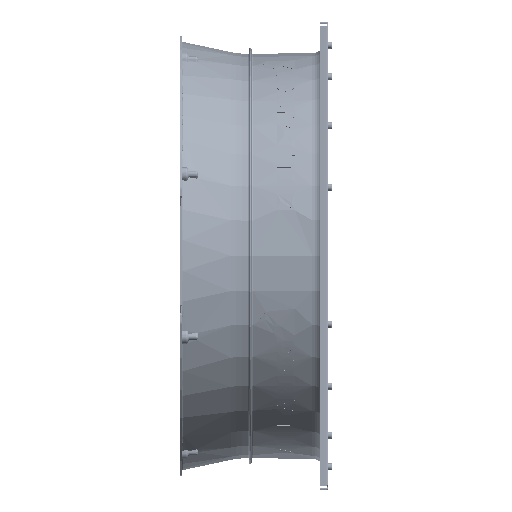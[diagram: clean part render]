
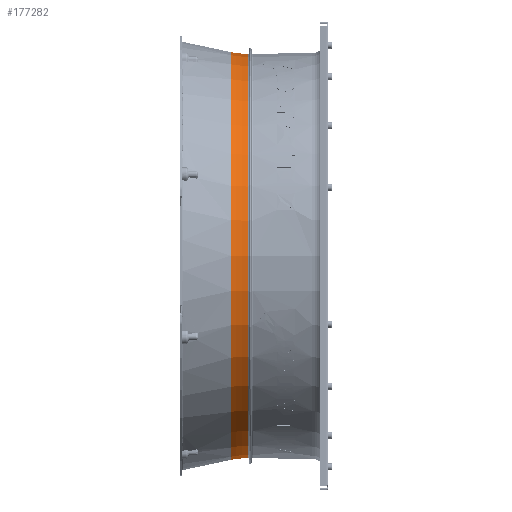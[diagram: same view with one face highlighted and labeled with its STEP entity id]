
A CAD part, top view. The second image highlights one B-rep face of the part: STEP entity #177282.
In plain terms, the highlighted toroidal (fillet/blend) face has major radius 712.262 mm and minor radius 206 mm.
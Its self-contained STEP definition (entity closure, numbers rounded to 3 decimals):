
#2755=CARTESIAN_POINT('',(11.963,712.262,
0.));
#2756=DIRECTION('',(0.,0.,-1.));
#2757=DIRECTION('',(0.003,-1.,0.));
#2758=AXIS2_PLACEMENT_3D('',#2755,#2756,#2757);
#2799=CARTESIAN_POINT('',(12.56,0.,0.));
#2800=DIRECTION('',(1.,0.,0.));
#2801=DIRECTION('',(0.,1.,0.));
#2802=AXIS2_PLACEMENT_3D('',#2799,#2800,#2801);
#2804=CARTESIAN_POINT('',(12.56,0.,0.));
#2805=DIRECTION('',(1.,0.,0.));
#2806=DIRECTION('',(0.,0.,1.));
#2807=AXIS2_PLACEMENT_3D('',#2804,#2805,#2806);
#2809=CARTESIAN_POINT('',(11.963,-712.262,
0.));
#2810=DIRECTION('',(0.,0.,1.));
#2811=DIRECTION('',(0.003,1.,0.));
#2812=AXIS2_PLACEMENT_3D('',#2809,#2810,#2811);
#20219=CARTESIAN_POINT('',(-30.867,0.,0.));
#20220=DIRECTION('',(-1.,0.,0.));
#20221=DIRECTION('',(0.,-1.,0.));
#20222=AXIS2_PLACEMENT_3D('',#20219,#20220,#20221);
#156812=CARTESIAN_POINT('',(-30.867,-510.763,
0.));
#156813=CARTESIAN_POINT('',(-30.867,510.763,
0.));
#156814=VERTEX_POINT('',#156812);
#156815=VERTEX_POINT('',#156813);
#156986=CARTESIAN_POINT('',(12.56,506.263,
0.));
#156987=CARTESIAN_POINT('',(12.56,0.,
506.263));
#156988=VERTEX_POINT('',#156986);
#156989=VERTEX_POINT('',#156987);
#156990=CARTESIAN_POINT('',(12.56,-506.263,
0.));
#156991=VERTEX_POINT('',#156990);
#177267=CARTESIAN_POINT('',(11.963,0.,0.));
#177268=DIRECTION('',(-1.,0.,0.));
#177269=DIRECTION('',(0.,-1.,0.));
#177270=AXIS2_PLACEMENT_3D('',#177267,#177268,#177269);
#177271=TOROIDAL_SURFACE('',#177270,712.262,206.);
#177273=ORIENTED_EDGE('',*,*,#177272,.T.);
#177275=ORIENTED_EDGE('',*,*,#177274,.T.);
#177276=ORIENTED_EDGE('',*,*,#177253,.T.);
#177278=ORIENTED_EDGE('',*,*,#177277,.T.);
#177279=ORIENTED_EDGE('',*,*,#177257,.F.);
#177280=EDGE_LOOP('',(#177273,#177275,#177276,#177278,#177279));
#177281=FACE_OUTER_BOUND('',#177280,.F.);
#2759=CIRCLE('',#2758,206.);
#2803=CIRCLE('',#2802,506.263);
#2808=CIRCLE('',#2807,506.263);
#2813=CIRCLE('',#2812,206.);
#20223=CIRCLE('',#20222,510.763);
#177253=EDGE_CURVE('',#156991,#156814,#2813,.T.);
#177257=EDGE_CURVE('',#156988,#156815,#2759,.T.);
#177272=EDGE_CURVE('',#156988,#156989,#2803,.T.);
#177274=EDGE_CURVE('',#156989,#156991,#2808,.T.);
#177277=EDGE_CURVE('',#156814,#156815,#20223,.T.);
#177282=ADVANCED_FACE('',(#177281),#177271,.F.);
